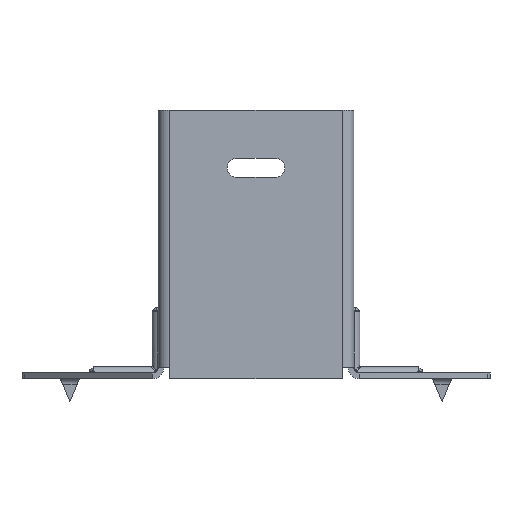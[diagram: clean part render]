
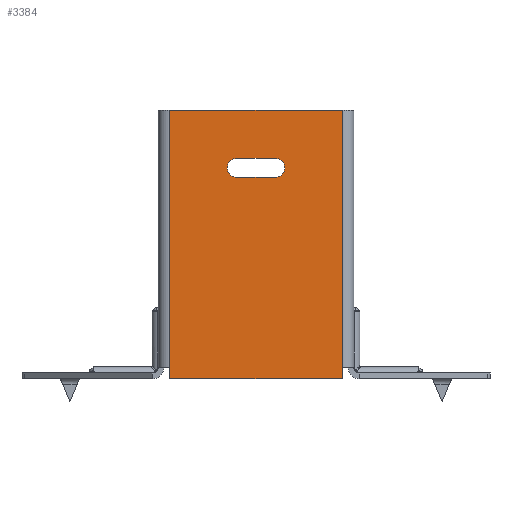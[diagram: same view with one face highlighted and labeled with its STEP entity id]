
A CAD part, front view. The second image highlights one B-rep face of the part: STEP entity #3384.
In plain terms, the highlighted planar face has unit normal (0, -1, 0).
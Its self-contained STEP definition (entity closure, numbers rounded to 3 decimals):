
#175 = DIRECTION ( 'NONE',  ( -1., 0., 0. ) ) ;
#236 = EDGE_CURVE ( 'NONE', #19018, #20936, #11242, .T. ) ;
#284 = CARTESIAN_POINT ( 'NONE',  ( -24., 0., 0. ) ) ;
#399 = CARTESIAN_POINT ( 'NONE',  ( 5., 0., -17.5 ) ) ;
#1278 = DIRECTION ( 'NONE',  ( 0., 0., 1. ) ) ;
#1751 = CIRCLE ( 'NONE', #22730, 2.5 ) ;
#1823 = DIRECTION ( 'NONE',  ( 0., 1., 0. ) ) ;
#2128 = DIRECTION ( 'NONE',  ( 0., 0., 1. ) ) ;
#2257 = CARTESIAN_POINT ( 'NONE',  ( -24., 0., -70. ) ) ;
#2421 = VECTOR ( 'NONE', #12045, 1000. ) ;
#2696 = DIRECTION ( 'NONE',  ( -1., 0., 0. ) ) ;
#3194 = CARTESIAN_POINT ( 'NONE',  ( -5., 0., -17.5 ) ) ;
#3267 = ORIENTED_EDGE ( 'NONE', *, *, #6767, .F. ) ;
#3311 = LINE ( 'NONE', #16627, #12234 ) ;
#3384 = ADVANCED_FACE ( 'NONE', ( #10919, #11186 ), #5336, .F. ) ;
#3872 = DIRECTION ( 'NONE',  ( 1., 0., 0. ) ) ;
#4195 = ORIENTED_EDGE ( 'NONE', *, *, #13755, .T. ) ;
#4496 = EDGE_CURVE ( 'NONE', #21520, #12295, #15060, .T. ) ;
#4690 = CARTESIAN_POINT ( 'NONE',  ( 22.5, 0., -70. ) ) ;
#4715 = CARTESIAN_POINT ( 'NONE',  ( 22.5, 0., -70. ) ) ;
#4775 = ORIENTED_EDGE ( 'NONE', *, *, #236, .T. ) ;
#5302 = ORIENTED_EDGE ( 'NONE', *, *, #4496, .T. ) ;
#5336 = PLANE ( 'NONE',  #22813 ) ;
#5468 = EDGE_CURVE ( 'NONE', #19211, #9187, #3311, .T. ) ;
#5801 = EDGE_CURVE ( 'NONE', #21520, #9187, #10549, .T. ) ;
#5937 = DIRECTION ( 'NONE',  ( 0., 0., -1. ) ) ;
#6044 = LINE ( 'NONE', #284, #16116 ) ;
#6155 = EDGE_CURVE ( 'NONE', #20936, #19464, #8582, .T. ) ;
#6537 = EDGE_LOOP ( 'NONE', ( #4775, #17016, #4195, #18363 ) ) ;
#6767 = EDGE_CURVE ( 'NONE', #21513, #21447, #6044, .T. ) ;
#6867 = LINE ( 'NONE', #22537, #20564 ) ;
#7160 = DIRECTION ( 'NONE',  ( 0., 1., 0. ) ) ;
#8038 = CARTESIAN_POINT ( 'NONE',  ( -22.5, 0., 0. ) ) ;
#8269 = DIRECTION ( 'NONE',  ( 0., 0., -1. ) ) ;
#8423 = CARTESIAN_POINT ( 'NONE',  ( -22.5, 0., -67. ) ) ;
#8536 = DIRECTION ( 'NONE',  ( 0., 1., 0. ) ) ;
#8582 = CIRCLE ( 'NONE', #14947, 2.5 ) ;
#9187 = VERTEX_POINT ( 'NONE', #22532 ) ;
#9328 = CARTESIAN_POINT ( 'NONE',  ( 5., 0., -12.5 ) ) ;
#9464 = ORIENTED_EDGE ( 'NONE', *, *, #12465, .T. ) ;
#10488 = VECTOR ( 'NONE', #21439, 1000. ) ;
#10549 = LINE ( 'NONE', #2257, #10849 ) ;
#10849 = VECTOR ( 'NONE', #175, 1000. ) ;
#10919 = FACE_BOUND ( 'NONE', #6537, .T. ) ;
#11186 = FACE_OUTER_BOUND ( 'NONE', #19929, .T. ) ;
#11242 = LINE ( 'NONE', #3194, #15162 ) ;
#12045 = DIRECTION ( 'NONE',  ( 0., 0., 1. ) ) ;
#12208 = ORIENTED_EDGE ( 'NONE', *, *, #21586, .T. ) ;
#12234 = VECTOR ( 'NONE', #5937, 1000. ) ;
#12295 = VERTEX_POINT ( 'NONE', #22027 ) ;
#12465 = EDGE_CURVE ( 'NONE', #12295, #21447, #22217, .T. ) ;
#13615 = CARTESIAN_POINT ( 'NONE',  ( 5., 0., -15. ) ) ;
#13755 = EDGE_CURVE ( 'NONE', #19464, #17128, #21099, .T. ) ;
#14675 = CARTESIAN_POINT ( 'NONE',  ( -5., 0., -12.5 ) ) ;
#14947 = AXIS2_PLACEMENT_3D ( 'NONE', #21593, #7160, #21668 ) ;
#15060 = LINE ( 'NONE', #4690, #15913 ) ;
#15079 = ORIENTED_EDGE ( 'NONE', *, *, #5468, .T. ) ;
#15162 = VECTOR ( 'NONE', #2696, 1000. ) ;
#15913 = VECTOR ( 'NONE', #19035, 1000. ) ;
#16116 = VECTOR ( 'NONE', #3872, 1000. ) ;
#16627 = CARTESIAN_POINT ( 'NONE',  ( -22.5, 0., 0. ) ) ;
#16868 = CARTESIAN_POINT ( 'NONE',  ( 22.5, 0., -70. ) ) ;
#17016 = ORIENTED_EDGE ( 'NONE', *, *, #6155, .T. ) ;
#17128 = VERTEX_POINT ( 'NONE', #9328 ) ;
#17817 = CARTESIAN_POINT ( 'NONE',  ( 0., 0., 0. ) ) ;
#18029 = ORIENTED_EDGE ( 'NONE', *, *, #5801, .F. ) ;
#18363 = ORIENTED_EDGE ( 'NONE', *, *, #18527, .T. ) ;
#18527 = EDGE_CURVE ( 'NONE', #17128, #19018, #1751, .T. ) ;
#19018 = VERTEX_POINT ( 'NONE', #399 ) ;
#19035 = DIRECTION ( 'NONE',  ( 0., 0., 1. ) ) ;
#19211 = VERTEX_POINT ( 'NONE', #8423 ) ;
#19464 = VERTEX_POINT ( 'NONE', #14675 ) ;
#19662 = CARTESIAN_POINT ( 'NONE',  ( -5., 0., -12.5 ) ) ;
#19929 = EDGE_LOOP ( 'NONE', ( #12208, #15079, #18029, #5302, #9464, #3267 ) ) ;
#20564 = VECTOR ( 'NONE', #8269, 1000. ) ;
#20936 = VERTEX_POINT ( 'NONE', #22602 ) ;
#21099 = LINE ( 'NONE', #19662, #10488 ) ;
#21439 = DIRECTION ( 'NONE',  ( 1., 0., 0. ) ) ;
#21447 = VERTEX_POINT ( 'NONE', #22151 ) ;
#21513 = VERTEX_POINT ( 'NONE', #8038 ) ;
#21520 = VERTEX_POINT ( 'NONE', #16868 ) ;
#21586 = EDGE_CURVE ( 'NONE', #21513, #19211, #6867, .T. ) ;
#21593 = CARTESIAN_POINT ( 'NONE',  ( -5., 0., -15. ) ) ;
#21668 = DIRECTION ( 'NONE',  ( 0., 0., 1. ) ) ;
#22027 = CARTESIAN_POINT ( 'NONE',  ( 22.5, 0., -67. ) ) ;
#22151 = CARTESIAN_POINT ( 'NONE',  ( 22.5, 0., 0. ) ) ;
#22217 = LINE ( 'NONE', #4715, #2421 ) ;
#22532 = CARTESIAN_POINT ( 'NONE',  ( -22.5, 0., -70. ) ) ;
#22537 = CARTESIAN_POINT ( 'NONE',  ( -22.5, 0., 0. ) ) ;
#22602 = CARTESIAN_POINT ( 'NONE',  ( -5., 0., -17.5 ) ) ;
#22730 = AXIS2_PLACEMENT_3D ( 'NONE', #13615, #8536, #1278 ) ;
#22813 = AXIS2_PLACEMENT_3D ( 'NONE', #17817, #1823, #2128 ) ;
